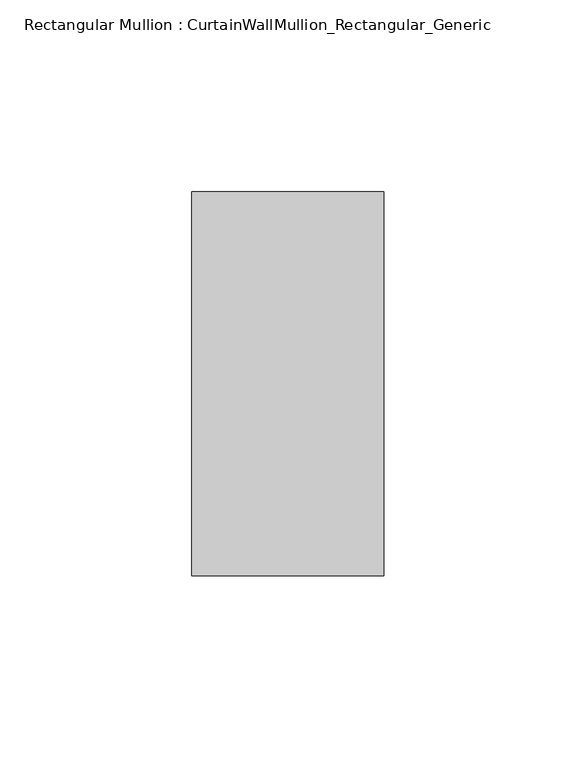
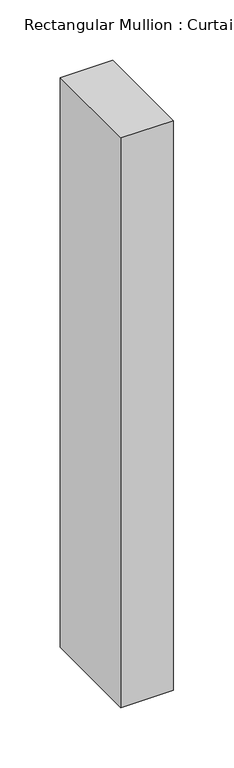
"""IFC4 building model written with IfcOpenShell, lengths in millimetres: member geometry, Rectangular Mullion : CurtainWallMullion_Rectangular_Generic."""

from ifc_helpers import new_model, si_unit, frame, origin, place, context, project, spatial, polyline, outline, extrude, source, transform, mapped, element, save


def rectangular_mullion_curtainwallmullion_rectangular_generic_d47b8a9d(model_context):
    return source(origin(), model_context, "Body", "SweptSolid", [
        extrude(outline(polyline([(0.0, 50.0), (0.0, -50.0), (-50.0, -50.0), (-50.0, 50.0), (0.0, 50.0)])), frame((0.0, 0.0, -575.0), z_axis=(0.0, 0.0, 1.0), x_axis=(1.0, 0.0, 0.0)), (0.0, 0.0, 1.0), 575.0),
    ])


if __name__ == "__main__":
    model = new_model("IFC4")
    model_context = context("Model", 3, world=origin())
    ifc_project = project(units=[si_unit("LENGTHUNIT", "METRE", prefix="MILLI")], contexts=[model_context])
    site = spatial("IfcSite", under=ifc_project)
    building = spatial("IfcBuilding", under=site)
    placement = place(None, origin())
    rectangular_mullion_curtainwallmullion_rectangular_generic_shape = rectangular_mullion_curtainwallmullion_rectangular_generic_d47b8a9d(model_context)
    element("IfcMember", 1, ObjectType="Rectangular Mullion : CurtainWallMullion_Rectangular_Generic", at=placement, inside=building, context=model_context, shape_type="MappedRepresentation", body=[
        mapped(rectangular_mullion_curtainwallmullion_rectangular_generic_shape, transform((0.0, 0.0, 0.0), x_axis=(1.0, 0.0, 0.0), y_axis=(0.0, 1.0, 0.0), z_axis=(0.0, 0.0, 1.0))),
    ])
    save(model, "model.ifc")
